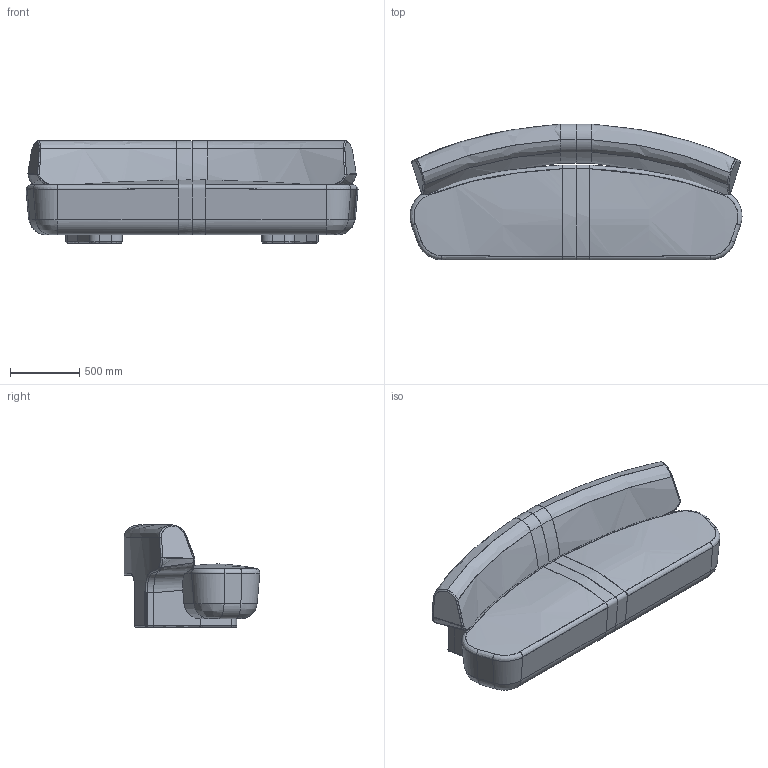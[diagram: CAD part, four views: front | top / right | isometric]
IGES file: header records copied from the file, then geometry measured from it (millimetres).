
Global section: file name: C:\Users\market02\Desktop\RYAN\3D\LITHO\FLITHCB2400_Canape banquette_Armeless sofa_Litho\exportation\FLITHCB2400_Canape banquette_Armeless sofa_Litho.igs; native system: Rhinoceros ( Dec 14 2021 ); preprocessor: Trout Lake IGES 012 Dec 14 2021; date: 220317.112824; units: millimetre
Bounding box: 2403.98 x 982.51 x 740 mm (x, y, z)
Surface area: 8380657.3 mm2 (no closed solid volume)
Topology: 0 solids, 0 shells, 212 faces, 2900 edges, 2897 vertices
Faces by surface type: bspline 212
